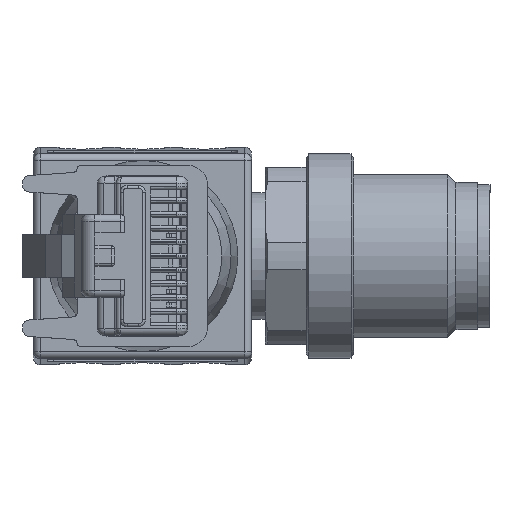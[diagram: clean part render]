
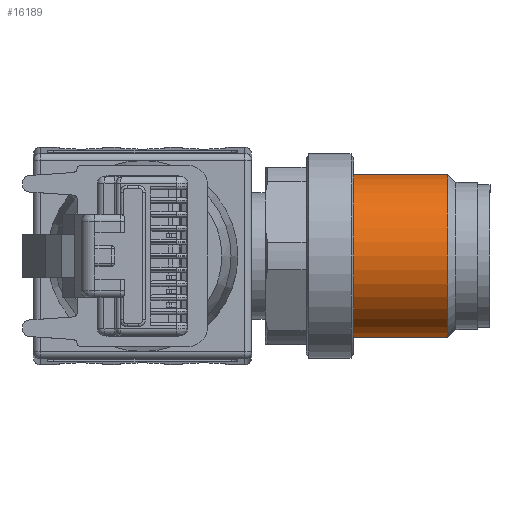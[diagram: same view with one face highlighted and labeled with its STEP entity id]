
A CAD part, left-side view. The second image highlights one B-rep face of the part: STEP entity #16189.
In plain terms, the highlighted cylindrical face has radius 6 mm (diameter 12 mm), a full revolution.
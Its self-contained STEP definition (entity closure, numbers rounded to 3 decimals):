
#548=LINE('',#24154,#1960);
#1960=VECTOR('',#19466,6.);
#3272=CYLINDRICAL_SURFACE('',#17297,6.);
#4600=FACE_OUTER_BOUND('',#5519,.T.);
#5519=EDGE_LOOP('',(#11640,#11641,#11642,#11643,#11644,#11645));
#6473=CIRCLE('',#17295,6.);
#6474=CIRCLE('',#17296,6.);
#6475=CIRCLE('',#17298,6.);
#6476=CIRCLE('',#17299,6.);
#7299=VERTEX_POINT('',#24145);
#7300=VERTEX_POINT('',#24146);
#7301=VERTEX_POINT('',#24150);
#7302=VERTEX_POINT('',#24151);
#8923=EDGE_CURVE('',#7299,#7300,#6473,.T.);
#8924=EDGE_CURVE('',#7300,#7299,#6474,.T.);
#8925=EDGE_CURVE('',#7301,#7302,#6475,.T.);
#8926=EDGE_CURVE('',#7302,#7301,#6476,.T.);
#8927=EDGE_CURVE('',#7302,#7300,#548,.T.);
#11640=ORIENTED_EDGE('',*,*,#8925,.F.);
#11641=ORIENTED_EDGE('',*,*,#8926,.F.);
#11642=ORIENTED_EDGE('',*,*,#8927,.T.);
#11643=ORIENTED_EDGE('',*,*,#8924,.T.);
#11644=ORIENTED_EDGE('',*,*,#8923,.T.);
#11645=ORIENTED_EDGE('',*,*,#8927,.F.);
#16189=ADVANCED_FACE('',(#4600),#3272,.T.);
#17295=AXIS2_PLACEMENT_3D('',#24147,#19456,#19457);
#17296=AXIS2_PLACEMENT_3D('',#24148,#19458,#19459);
#17297=AXIS2_PLACEMENT_3D('',#24149,#19460,#19461);
#17298=AXIS2_PLACEMENT_3D('',#24152,#19462,#19463);
#17299=AXIS2_PLACEMENT_3D('',#24153,#19464,#19465);
#19456=DIRECTION('center_axis',(0.,-1.,0.));
#19457=DIRECTION('ref_axis',(0.866,0.,-0.5));
#19458=DIRECTION('center_axis',(0.,-1.,0.));
#19459=DIRECTION('ref_axis',(0.866,0.,-0.5));
#19460=DIRECTION('center_axis',(0.,-1.,0.));
#19461=DIRECTION('ref_axis',(0.5,0.,-0.866));
#19462=DIRECTION('center_axis',(0.,-1.,0.));
#19463=DIRECTION('ref_axis',(0.5,0.,-0.866));
#19464=DIRECTION('center_axis',(0.,-1.,0.));
#19465=DIRECTION('ref_axis',(0.5,0.,-0.866));
#19466=DIRECTION('',(0.,1.,0.));
#24145=CARTESIAN_POINT('',(5.196,10.,-3.));
#24146=CARTESIAN_POINT('',(-3.,10.,5.196));
#24147=CARTESIAN_POINT('Origin',(0.,10.,0.));
#24148=CARTESIAN_POINT('Origin',(0.,10.,0.));
#24149=CARTESIAN_POINT('Origin',(0.,1.,0.));
#24150=CARTESIAN_POINT('',(3.,3.1,-5.196));
#24151=CARTESIAN_POINT('',(-3.,3.1,5.196));
#24152=CARTESIAN_POINT('Origin',(0.,3.1,0.));
#24153=CARTESIAN_POINT('Origin',(0.,3.1,0.));
#24154=CARTESIAN_POINT('',(-3.,1.,5.196));
